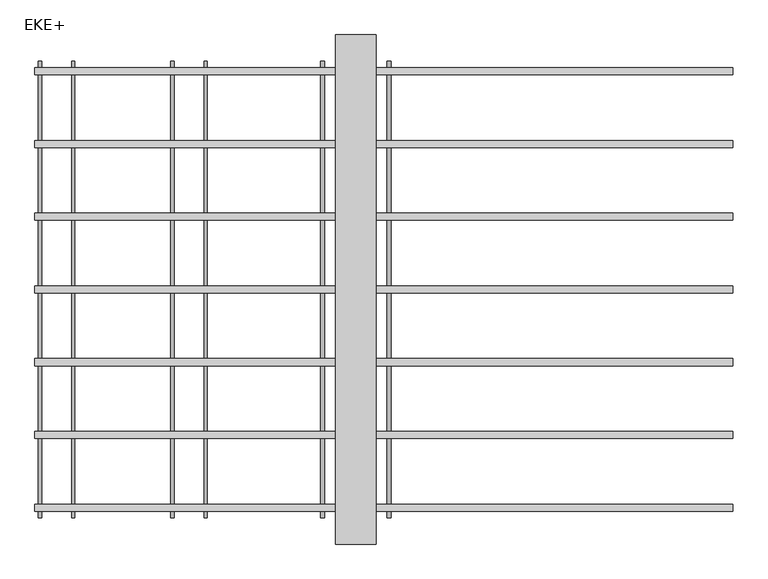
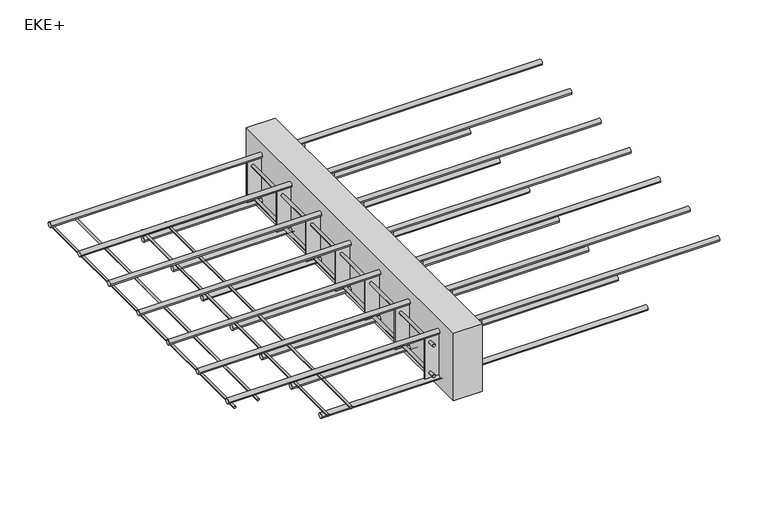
"""IFC4 building model written with IfcOpenShell, lengths in millimetres: proxy geometry, ACINOXplus_Typenreihe_EK : EKE+."""

from ifc_helpers import new_model, si_unit, point, frame, frame_2d, origin, place, context, project, spatial, polyline, circle_curve, trimmed, segment, composite_curve, outline, extrude, source, transform, mapped, element, save


def eke_d06321f1(model_context):
    return source(origin(), model_context, "Body", "SweptSolid", [
        extrude(outline(polyline([(40.0, 500.0), (40.0, -500.0), (-40.0, -500.0), (-40.0, 500.0), (40.0, 500.0)])), frame((0.0, 0.0, -200.0), z_axis=(0.0, 0.0, 1.0), x_axis=(1.0, 0.0, 0.0)), (0.0, 0.0, 1.0), 200.0),
        extrude(outline(polyline([(80.0, -284.2142857), (80.0, -287.2142857), (-80.0, -287.2142857), (-80.0, -284.2142857), (80.0, -284.2142857)])), frame((0.0, 0.0, -164.0), z_axis=(0.0, 0.0, 1.0), x_axis=(1.0, 0.0, 0.0)), (0.0, 0.0, 1.0), 120.0),
        extrude(outline(polyline([(80.0, -141.3571429), (80.0, -144.3571429), (-80.0, -144.3571429), (-80.0, -141.3571429), (80.0, -141.3571429)])), frame((0.0, 0.0, -164.0), z_axis=(0.0, 0.0, 1.0), x_axis=(1.0, 0.0, 0.0)), (0.0, 0.0, 1.0), 120.0),
        extrude(outline(polyline([(80.0, 1.5), (80.0, -1.5), (-80.0, -1.5), (-80.0, 1.5), (80.0, 1.5)])), frame((0.0, 0.0, -164.0), z_axis=(0.0, 0.0, 1.0), x_axis=(1.0, 0.0, 0.0)), (0.0, 0.0, 1.0), 120.0),
        extrude(outline(polyline([(80.0, 144.3571429), (80.0, 141.3571429), (-80.0, 141.3571429), (-80.0, 144.3571429), (80.0, 144.3571429)])), frame((0.0, 0.0, -164.0), z_axis=(0.0, 0.0, 1.0), x_axis=(1.0, 0.0, 0.0)), (0.0, 0.0, 1.0), 120.0),
        extrude(outline(polyline([(80.0, 287.2142857), (80.0, 284.2142857), (-80.0, 284.2142857), (-80.0, 287.2142857), (80.0, 287.2142857)])), frame((0.0, 0.0, -164.0), z_axis=(0.0, 0.0, 1.0), x_axis=(1.0, 0.0, 0.0)), (0.0, 0.0, 1.0), 120.0),
        extrude(outline(polyline([(80.0, -427.0714286), (80.0, -430.0714286), (-80.0, -430.0714286), (-80.0, -427.0714286), (80.0, -427.0714286)])), frame((0.0, 0.0, -164.0), z_axis=(0.0, 0.0, 1.0), x_axis=(1.0, 0.0, 0.0)), (0.0, 0.0, 1.0), 120.0),
        extrude(outline(polyline([(80.0, 430.0714286), (80.0, 427.0714286), (-80.0, 427.0714286), (-80.0, 430.0714286), (80.0, 430.0714286)])), frame((0.0, 0.0, -164.0), z_axis=(0.0, 0.0, 1.0), x_axis=(1.0, 0.0, 0.0)), (0.0, 0.0, 1.0), 120.0),
        extrude(outline(composite_curve([segment(trimmed(circle_curve(frame_2d((-149.0, -65.0)), 4.0), [point((-149.0, -61.0))], [point((-149.0, -69.0))], False, "CARTESIAN"), True, "CONTINUOUS"), segment(trimmed(circle_curve(frame_2d((-149.0, -65.0)), 4.0), [point((-149.0, -69.0))], [point((-149.0, -61.0))], False, "CARTESIAN"), True, "CONTINUOUS")], self_intersect=False)), frame((0.0, -448.5714286, 0.0), z_axis=(0.0, 1.0, 0.0), x_axis=(0.0, 0.0, 1.0)), (0.0, 0.0, 1.0), 897.1428571),
        extrude(outline(composite_curve([segment(trimmed(circle_curve(frame_2d((-149.0, 65.0)), 4.0), [point((-149.0, 69.0))], [point((-149.0, 61.0))], False, "CARTESIAN"), True, "CONTINUOUS"), segment(trimmed(circle_curve(frame_2d((-149.0, 65.0)), 4.0), [point((-149.0, 61.0))], [point((-149.0, 69.0))], False, "CARTESIAN"), True, "CONTINUOUS")], self_intersect=False)), frame((0.0, -448.5714286, 0.0), z_axis=(0.0, 1.0, 0.0), x_axis=(0.0, 0.0, 1.0)), (0.0, 0.0, 1.0), 897.1428571),
        extrude(outline(composite_curve([segment(trimmed(circle_curve(frame_2d((-59.0, -65.0)), 4.0), [point((-59.0, -61.0))], [point((-59.0, -69.0))], False, "CARTESIAN"), True, "CONTINUOUS"), segment(trimmed(circle_curve(frame_2d((-59.0, -65.0)), 4.0), [point((-59.0, -69.0))], [point((-59.0, -61.0))], False, "CARTESIAN"), True, "CONTINUOUS")], self_intersect=False)), frame((0.0, -448.5714286, 0.0), z_axis=(0.0, 1.0, 0.0), x_axis=(0.0, 0.0, 1.0)), (0.0, 0.0, 1.0), 897.1428571),
        extrude(outline(composite_curve([segment(trimmed(circle_curve(frame_2d((-59.0, 65.0)), 4.0), [point((-59.0, 69.0))], [point((-59.0, 61.0))], False, "CARTESIAN"), True, "CONTINUOUS"), segment(trimmed(circle_curve(frame_2d((-59.0, 65.0)), 4.0), [point((-59.0, 61.0))], [point((-59.0, 69.0))], False, "CARTESIAN"), True, "CONTINUOUS")], self_intersect=False)), frame((0.0, -448.5714286, 0.0), z_axis=(0.0, 1.0, 0.0), x_axis=(0.0, 0.0, 1.0)), (0.0, 0.0, 1.0), 897.1428571),
        extrude(outline(composite_curve([segment(trimmed(circle_curve(frame_2d((142.8571429, -171.0)), 7.0), [point((135.8571429, -171.0))], [point((149.8571429, -171.0))], False, "CARTESIAN"), True, "CONTINUOUS"), segment(trimmed(circle_curve(frame_2d((142.8571429, -171.0)), 7.0), [point((149.8571429, -171.0))], [point((135.8571429, -171.0))], False, "CARTESIAN"), True, "CONTINUOUS")], self_intersect=False)), frame((-370.0, 0.0, 0.0), z_axis=(1.0, 0.0, 0.0), x_axis=(0.0, 1.0, 0.0)), (0.0, 0.0, 1.0), 910.0),
        extrude(outline(composite_curve([segment(trimmed(circle_curve(frame_2d((0.0, -171.0)), 7.0), [point((-7.0, -171.0))], [point((7.0, -171.0))], False, "CARTESIAN"), True, "CONTINUOUS"), segment(trimmed(circle_curve(frame_2d((0.0, -171.0)), 7.0), [point((7.0, -171.0))], [point((-7.0, -171.0))], False, "CARTESIAN"), True, "CONTINUOUS")], self_intersect=False)), frame((-370.0, 0.0, 0.0), z_axis=(1.0, 0.0, 0.0), x_axis=(0.0, 1.0, 0.0)), (0.0, 0.0, 1.0), 910.0),
        extrude(outline(composite_curve([segment(trimmed(circle_curve(frame_2d((-142.8571429, -171.0)), 7.0), [point((-149.8571429, -171.0))], [point((-135.8571429, -171.0))], False, "CARTESIAN"), True, "CONTINUOUS"), segment(trimmed(circle_curve(frame_2d((-142.8571429, -171.0)), 7.0), [point((-135.8571429, -171.0))], [point((-149.8571429, -171.0))], False, "CARTESIAN"), True, "CONTINUOUS")], self_intersect=False)), frame((-370.0, 0.0, 0.0), z_axis=(1.0, 0.0, 0.0), x_axis=(0.0, 1.0, 0.0)), (0.0, 0.0, 1.0), 910.0),
        extrude(outline(composite_curve([segment(trimmed(circle_curve(frame_2d((285.7142857, -171.0)), 7.0), [point((278.7142857, -171.0))], [point((292.7142857, -171.0))], False, "CARTESIAN"), True, "CONTINUOUS"), segment(trimmed(circle_curve(frame_2d((285.7142857, -171.0)), 7.0), [point((292.7142857, -171.0))], [point((278.7142857, -171.0))], False, "CARTESIAN"), True, "CONTINUOUS")], self_intersect=False)), frame((-370.0, 0.0, 0.0), z_axis=(1.0, 0.0, 0.0), x_axis=(0.0, 1.0, 0.0)), (0.0, 0.0, 1.0), 910.0),
        extrude(outline(composite_curve([segment(trimmed(circle_curve(frame_2d((428.5714286, -171.0)), 7.0), [point((421.5714286, -171.0))], [point((435.5714286, -171.0))], False, "CARTESIAN"), True, "CONTINUOUS"), segment(trimmed(circle_curve(frame_2d((428.5714286, -171.0)), 7.0), [point((435.5714286, -171.0))], [point((421.5714286, -171.0))], False, "CARTESIAN"), True, "CONTINUOUS")], self_intersect=False)), frame((-370.0, 0.0, 0.0), z_axis=(1.0, 0.0, 0.0), x_axis=(0.0, 1.0, 0.0)), (0.0, 0.0, 1.0), 910.0),
        extrude(outline(composite_curve([segment(trimmed(circle_curve(frame_2d((-285.7142857, -171.0)), 7.0), [point((-292.7142857, -171.0))], [point((-278.7142857, -171.0))], False, "CARTESIAN"), True, "CONTINUOUS"), segment(trimmed(circle_curve(frame_2d((-285.7142857, -171.0)), 7.0), [point((-278.7142857, -171.0))], [point((-292.7142857, -171.0))], False, "CARTESIAN"), True, "CONTINUOUS")], self_intersect=False)), frame((-370.0, 0.0, 0.0), z_axis=(1.0, 0.0, 0.0), x_axis=(0.0, 1.0, 0.0)), (0.0, 0.0, 1.0), 910.0),
        extrude(outline(composite_curve([segment(trimmed(circle_curve(frame_2d((-428.5714286, -171.0)), 7.0), [point((-435.5714286, -171.0))], [point((-421.5714286, -171.0))], False, "CARTESIAN"), True, "CONTINUOUS"), segment(trimmed(circle_curve(frame_2d((-428.5714286, -171.0)), 7.0), [point((-421.5714286, -171.0))], [point((-435.5714286, -171.0))], False, "CARTESIAN"), True, "CONTINUOUS")], self_intersect=False)), frame((-370.0, 0.0, 0.0), z_axis=(1.0, 0.0, 0.0), x_axis=(0.0, 1.0, 0.0)), (0.0, 0.0, 1.0), 910.0),
        extrude(outline(composite_curve([segment(trimmed(circle_curve(frame_2d((142.8571429, -37.0)), 7.0), [point((135.8571429, -37.0))], [point((149.8571429, -37.0))], False, "CARTESIAN"), True, "CONTINUOUS"), segment(trimmed(circle_curve(frame_2d((142.8571429, -37.0)), 7.0), [point((149.8571429, -37.0))], [point((135.8571429, -37.0))], False, "CARTESIAN"), True, "CONTINUOUS")], self_intersect=False)), frame((-630.0, 0.0, 0.0), z_axis=(1.0, 0.0, 0.0), x_axis=(0.0, 1.0, 0.0)), (0.0, 0.0, 1.0), 1370.0),
        extrude(outline(composite_curve([segment(trimmed(circle_curve(frame_2d((0.0, -37.0)), 7.0), [point((-7.0, -37.0))], [point((7.0, -37.0))], False, "CARTESIAN"), True, "CONTINUOUS"), segment(trimmed(circle_curve(frame_2d((0.0, -37.0)), 7.0), [point((7.0, -37.0))], [point((-7.0, -37.0))], False, "CARTESIAN"), True, "CONTINUOUS")], self_intersect=False)), frame((-630.0, 0.0, 0.0), z_axis=(1.0, 0.0, 0.0), x_axis=(0.0, 1.0, 0.0)), (0.0, 0.0, 1.0), 1370.0),
        extrude(outline(composite_curve([segment(trimmed(circle_curve(frame_2d((-142.8571429, -37.0)), 7.0), [point((-149.8571429, -37.0))], [point((-135.8571429, -37.0))], False, "CARTESIAN"), True, "CONTINUOUS"), segment(trimmed(circle_curve(frame_2d((-142.8571429, -37.0)), 7.0), [point((-135.8571429, -37.0))], [point((-149.8571429, -37.0))], False, "CARTESIAN"), True, "CONTINUOUS")], self_intersect=False)), frame((-630.0, 0.0, 0.0), z_axis=(1.0, 0.0, 0.0), x_axis=(0.0, 1.0, 0.0)), (0.0, 0.0, 1.0), 1370.0),
        extrude(outline(composite_curve([segment(trimmed(circle_curve(frame_2d((285.7142857, -37.0)), 7.0), [point((278.7142857, -37.0))], [point((292.7142857, -37.0))], False, "CARTESIAN"), True, "CONTINUOUS"), segment(trimmed(circle_curve(frame_2d((285.7142857, -37.0)), 7.0), [point((292.7142857, -37.0))], [point((278.7142857, -37.0))], False, "CARTESIAN"), True, "CONTINUOUS")], self_intersect=False)), frame((-630.0, 0.0, 0.0), z_axis=(1.0, 0.0, 0.0), x_axis=(0.0, 1.0, 0.0)), (0.0, 0.0, 1.0), 1370.0),
        extrude(outline(composite_curve([segment(trimmed(circle_curve(frame_2d((428.5714286, -37.0)), 7.0), [point((421.5714286, -37.0))], [point((435.5714286, -37.0))], False, "CARTESIAN"), True, "CONTINUOUS"), segment(trimmed(circle_curve(frame_2d((428.5714286, -37.0)), 7.0), [point((435.5714286, -37.0))], [point((421.5714286, -37.0))], False, "CARTESIAN"), True, "CONTINUOUS")], self_intersect=False)), frame((-630.0, 0.0, 0.0), z_axis=(1.0, 0.0, 0.0), x_axis=(0.0, 1.0, 0.0)), (0.0, 0.0, 1.0), 1370.0),
        extrude(outline(composite_curve([segment(trimmed(circle_curve(frame_2d((-285.7142857, -37.0)), 7.0), [point((-292.7142857, -37.0))], [point((-278.7142857, -37.0))], False, "CARTESIAN"), True, "CONTINUOUS"), segment(trimmed(circle_curve(frame_2d((-285.7142857, -37.0)), 7.0), [point((-278.7142857, -37.0))], [point((-292.7142857, -37.0))], False, "CARTESIAN"), True, "CONTINUOUS")], self_intersect=False)), frame((-630.0, 0.0, 0.0), z_axis=(1.0, 0.0, 0.0), x_axis=(0.0, 1.0, 0.0)), (0.0, 0.0, 1.0), 1370.0),
        extrude(outline(composite_curve([segment(trimmed(circle_curve(frame_2d((-428.5714286, -37.0)), 7.0), [point((-435.5714286, -37.0))], [point((-421.5714286, -37.0))], False, "CARTESIAN"), True, "CONTINUOUS"), segment(trimmed(circle_curve(frame_2d((-428.5714286, -37.0)), 7.0), [point((-421.5714286, -37.0))], [point((-435.5714286, -37.0))], False, "CARTESIAN"), True, "CONTINUOUS")], self_intersect=False)), frame((-630.0, 0.0, 0.0), z_axis=(1.0, 0.0, 0.0), x_axis=(0.0, 1.0, 0.0)), (0.0, 0.0, 1.0), 1370.0),
        extrude(outline(composite_curve([segment(trimmed(circle_curve(frame_2d((-161.0, -360.0)), 3.0), [point((-161.0, -357.0))], [point((-161.0, -363.0))], False, "CARTESIAN"), True, "CONTINUOUS"), segment(trimmed(circle_curve(frame_2d((-161.0, -360.0)), 3.0), [point((-161.0, -363.0))], [point((-161.0, -357.0))], False, "CARTESIAN"), True, "CONTINUOUS")], self_intersect=False)), frame((0.0, -448.5714286, 0.0), z_axis=(0.0, 1.0, 0.0), x_axis=(0.0, 0.0, 1.0)), (0.0, 0.0, 1.0), 897.1428571),
        extrude(outline(composite_curve([segment(trimmed(circle_curve(frame_2d((-161.0, -295.0)), 3.0), [point((-161.0, -292.0))], [point((-161.0, -298.0))], False, "CARTESIAN"), True, "CONTINUOUS"), segment(trimmed(circle_curve(frame_2d((-161.0, -295.0)), 3.0), [point((-161.0, -298.0))], [point((-161.0, -292.0))], False, "CARTESIAN"), True, "CONTINUOUS")], self_intersect=False)), frame((0.0, -448.5714286, 0.0), z_axis=(0.0, 1.0, 0.0), x_axis=(0.0, 0.0, 1.0)), (0.0, 0.0, 1.0), 897.1428571),
        extrude(outline(composite_curve([segment(trimmed(circle_curve(frame_2d((-47.0, -620.0)), 3.0), [point((-47.0, -617.0))], [point((-47.0, -623.0))], False, "CARTESIAN"), True, "CONTINUOUS"), segment(trimmed(circle_curve(frame_2d((-47.0, -620.0)), 3.0), [point((-47.0, -623.0))], [point((-47.0, -617.0))], False, "CARTESIAN"), True, "CONTINUOUS")], self_intersect=False)), frame((0.0, -448.5714286, 0.0), z_axis=(0.0, 1.0, 0.0), x_axis=(0.0, 0.0, 1.0)), (0.0, 0.0, 1.0), 897.1428571),
        extrude(outline(composite_curve([segment(trimmed(circle_curve(frame_2d((-47.0, -555.0)), 3.0), [point((-47.0, -552.0))], [point((-47.0, -558.0))], False, "CARTESIAN"), True, "CONTINUOUS"), segment(trimmed(circle_curve(frame_2d((-47.0, -555.0)), 3.0), [point((-47.0, -558.0))], [point((-47.0, -552.0))], False, "CARTESIAN"), True, "CONTINUOUS")], self_intersect=False)), frame((0.0, -448.5714286, 0.0), z_axis=(0.0, 1.0, 0.0), x_axis=(0.0, 0.0, 1.0)), (0.0, 0.0, 1.0), 897.1428571),
    ])


if __name__ == "__main__":
    model = new_model("IFC4")
    model_context = context("Model", 3, world=origin())
    ifc_project = project(units=[si_unit("LENGTHUNIT", "METRE", prefix="MILLI")], contexts=[model_context])
    site = spatial("IfcSite", under=ifc_project)
    building = spatial("IfcBuilding", under=site)
    placement = place(None, origin())
    eke_shape = eke_d06321f1(model_context)
    element("IfcBuildingElementProxy", 1, Name="ACINOXplus_Typenreihe_EK : EKE+", ObjectType="ACINOXplus_Typenreihe_EK : EKE+", at=placement, inside=building, context=model_context, shape_type="MappedRepresentation", body=[
        mapped(eke_shape, transform((0.0, 0.0, 0.0), x_axis=(1.0, 0.0, 0.0), y_axis=(0.0, 1.0, 0.0), z_axis=(0.0, 0.0, 1.0))),
    ])
    save(model, "model.ifc")
